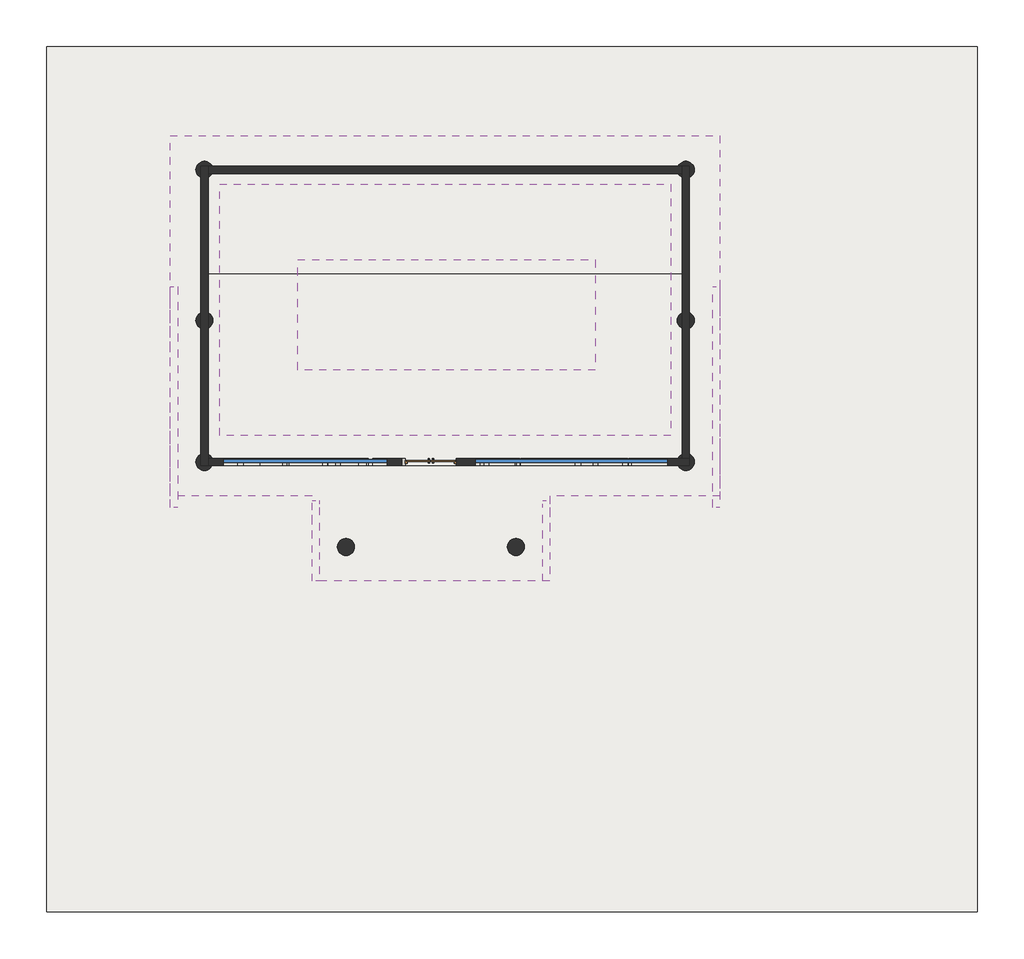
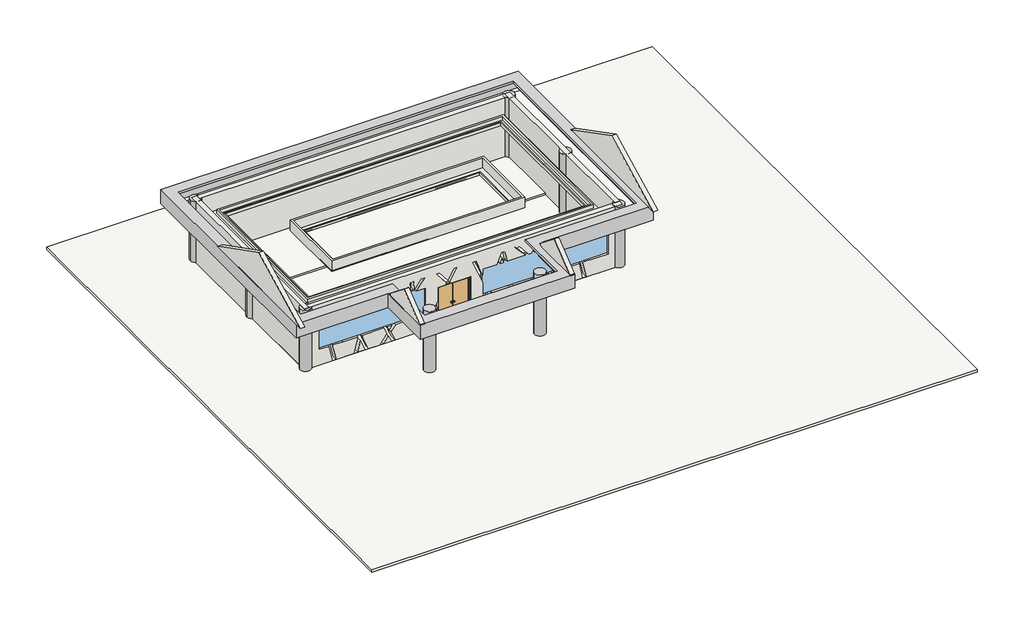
# One storey, incomplete: 10 walls, 8 columns, 3 slabs, 1 door, 1 proxy, 1 window.
"""IFC4 building model written with IfcOpenShell, lengths in millimetres."""

from ifc_helpers import new_model, si_unit, frame, origin, origin_with_axes, place, context, project, spatial, polyline, outline, extrude, faceted_brep, transform, mapped, element, save
from components import generic_models_78a03f4a, column_75cm_7b31edd7, door_180_x_220_cm_38ff8c34, wall_4f85f43c, wall_08e8096b, window_81e3a7f6

model = new_model("IFC4")

# Units and contexts
model_context = context("Model", 3, world=origin())
ifc_project = project(units=[si_unit("LENGTHUNIT", "METRE", prefix="MILLI")], contexts=[model_context])

# Site, building, storey
site = spatial("IfcSite", under=ifc_project)
building = spatial("IfcBuilding", under=site)
storey = spatial("IfcBuildingStorey", under=building, Name="樓層 1", Elevation=0.0)

# Proxy
placement = place(None, origin())
generic_models_shape = generic_models_78a03f4a(model_context)
element("IfcBuildingElementProxy", 1, Name="屋頂 : 屋頂", ObjectType="屋頂 : 屋頂", at=placement, inside=storey, context=model_context, shape_type="MappedRepresentation", body=[
    mapped(generic_models_shape, transform((0.0, 0.0, 0.0), x_axis=(1.0, 0.0, 0.0), y_axis=(0.0, 1.0, 0.0), z_axis=(0.0, 0.0, 1.0))),
])

# Columns
column_75cm_shape = column_75cm_7b31edd7(model_context)
element("IfcColumn", 2, ObjectType="混凝土柱-圓形 : 75cm", at=placement, inside=storey, context=model_context, shape_type="MappedRepresentation", body=[
    mapped(column_75cm_shape, transform((1677.4473407, -8864.8205358, 0.0), x_axis=(1.0, 0.0, 0.0), y_axis=(0.0, 1.0, 0.0), z_axis=(0.0, 0.0, 1.0))),
])
element("IfcColumn", 3, ObjectType="混凝土柱-圓形 : 75cm", at=placement, inside=storey, context=model_context, shape_type="MappedRepresentation", body=[
    mapped(column_75cm_shape, transform((7677.4473407, -8864.8205358, 0.0), x_axis=(1.0, 0.0, 0.0), y_axis=(0.0, 1.0, 0.0), z_axis=(0.0, 0.0, 1.0))),
])
element("IfcColumn", 4, ObjectType="混凝土柱-圓形 : 75cm", at=placement, inside=storey, context=model_context, shape_type="MappedRepresentation", body=[
    mapped(column_75cm_shape, transform((13677.4473407, -5864.8205358, 0.0), x_axis=(1.0, 0.0, 0.0), y_axis=(0.0, 1.0, 0.0), z_axis=(0.0, 0.0, 1.0))),
])
element("IfcColumn", 5, ObjectType="混凝土柱-圓形 : 75cm", at=placement, inside=storey, context=model_context, shape_type="MappedRepresentation", body=[
    mapped(column_75cm_shape, transform((-3322.5526593, -5864.8205358, 0.0), x_axis=(1.0, 0.0, 0.0), y_axis=(0.0, 1.0, 0.0), z_axis=(0.0, 0.0, 1.0))),
])
element("IfcColumn", 6, ObjectType="混凝土柱-圓形 : 75cm", at=placement, inside=storey, context=model_context, shape_type="MappedRepresentation", body=[
    mapped(column_75cm_shape, transform((-3322.5526593, -864.8205358, 0.0), x_axis=(1.0, 0.0, 0.0), y_axis=(0.0, 1.0, 0.0), z_axis=(0.0, 0.0, 1.0))),
])
element("IfcColumn", 7, ObjectType="混凝土柱-圓形 : 75cm", at=placement, inside=storey, context=model_context, shape_type="MappedRepresentation", body=[
    mapped(column_75cm_shape, transform((13677.4473407, -864.8205358, 0.0), x_axis=(1.0, 0.0, 0.0), y_axis=(0.0, 1.0, 0.0), z_axis=(0.0, 0.0, 1.0))),
])
element("IfcColumn", 8, ObjectType="混凝土柱-圓形 : 75cm", at=placement, inside=storey, context=model_context, shape_type="MappedRepresentation", body=[
    mapped(column_75cm_shape, transform((-3322.5526593, 4460.1794642, 0.0), x_axis=(1.0, 0.0, 0.0), y_axis=(0.0, 1.0, 0.0), z_axis=(0.0, 0.0, 1.0))),
])
element("IfcColumn", 9, ObjectType="混凝土柱-圓形 : 75cm", at=placement, inside=storey, context=model_context, shape_type="MappedRepresentation", body=[
    mapped(column_75cm_shape, transform((13677.4473407, 4460.1794642, 0.0), x_axis=(1.0, 0.0, 0.0), y_axis=(0.0, 1.0, 0.0), z_axis=(0.0, 0.0, 1.0))),
])

# Door
door_180_x_220_cm_shape = door_180_x_220_cm_38ff8c34(model_context)
element("IfcDoor", 10, ObjectType="雙開-矩形- (1) : 180 x 220 cm", at=placement, inside=storey, context=model_context, shape_type="MappedRepresentation", body=[
    mapped(door_180_x_220_cm_shape, transform((4677.4473407, -5864.8205358, 0.0), x_axis=(1.0, 0.0, 0.0), y_axis=(0.0, 1.0, 0.0), z_axis=(0.0, 0.0, 1.0))),
])

# Slabs
element("IfcSlab", 11, ObjectType="一般 - 15cm 2", at=placement, inside=storey, context=model_context, shape_type="SweptSolid", body=[
    extrude(outline(polyline([(23977.4473407, 8815.1794642), (23977.4473407, -21764.8205358), (-8897.5526593, -21764.8205358), (-8897.5526593, 8815.1794642), (23977.4473407, 8815.1794642)]), holes=[polyline([(-3452.5526593, 4590.1794642), (-3452.5526593, -5994.8205358), (13807.4473407, -5994.8205358), (13807.4473407, 4590.1794642), (-3452.5526593, 4590.1794642)])]), frame((0.0, 0.0, -150.0), z_axis=(0.0, 0.0, 1.0), x_axis=(1.0, 0.0, 0.0)), (0.0, 0.0, 1.0), 150.0),
])
element("IfcSlab", 12, ObjectType="一般 - 15cm", at=placement, inside=storey, context=model_context, shape_type="SweptSolid", body=[
    extrude(outline(polyline([(13797.4473407, 4585.1794642), (13797.4473407, -5984.8205358), (-3442.5526593, -5984.8205358), (-3442.5526593, 4585.1794642), (13797.4473407, 4585.1794642)])), frame((0.0, 0.0, -140.0), z_axis=(0.0, 0.0, 1.0), x_axis=(1.0, 0.0, 0.0)), (0.0, 0.0, 1.0), 150.0),
])
element("IfcSlab", 13, ObjectType="內部樓板", at=placement, inside=storey, context=model_context, shape_type="SweptSolid", body=[
    extrude(outline(polyline([(13547.4473407, 4330.1794642), (13547.4473407, 784.3306079), (-3192.5526593, 784.3306079), (-3192.5526593, 4330.1794642), (13547.4473407, 4330.1794642)])), frame((0.0, 0.0, -50.0), z_axis=(0.0, 0.0, 1.0), x_axis=(1.0, 0.0, 0.0)), (0.0, 0.0, 1.0), 150.0),
])

# Walls
element("IfcWall", 14, ObjectType="RC 擋土牆 - 30cm", at=placement, inside=storey, context=model_context, shape_type="Brep", body=[
    faceted_brep([(-3452.5526593, 4590.1794642, 0.0), (-3452.5526593, -5994.8205358, 0.0), (-3452.5526593, -5994.8205358, 3500.0), (-3452.5526593, 4590.1794642, 3500.0), (-3192.5526593, 4590.1794642, 0.0), (-3192.5526593, 4590.1794642, 3500.0), (-3192.5526593, 4330.1794642, 3500.0), (-3192.5526593, -5734.8205358, 3500.0), (-3192.5526593, -5994.8205358, 3500.0), (-3192.5526593, -5994.8205358, 0.0), (-3192.5526593, -5734.8205358, 0.0), (-3192.5526593, 4330.1794642, 0.0)], [[[0, 1, 2, 3]], [[4, 5, 6, 7, 8, 9, 10, 11]], [[1, 0, 4, 11, 10, 9]], [[3, 2, 8, 7, 6, 5]], [[2, 1, 9, 8]], [[0, 3, 5, 4]]]),
])
element("IfcWall", 15, ObjectType="RC 擋土牆 - 30cm", at=placement, inside=storey, context=model_context, shape_type="Brep", body=[
    faceted_brep([(-3192.5526593, -5994.8205358, 0.0), (-1929.9480859, -5994.8205358, 0.0), (-2137.7294579, -5994.8205358, 900.0), (-2660.9441643, -5994.8205358, 900.0), (-2660.9441643, -5994.8205358, 2400.0), (-2484.0317446, -5994.8205358, 2400.0), (-2622.5526593, -5994.8205358, 3000.0), (-2422.5526593, -5994.8205358, 3000.0), (-2284.0317446, -5994.8205358, 2400.0), (-1373.2679161, -5994.8205358, 2400.0), (-1167.8677695, -5994.8205358, 2400.0), (-1422.5526593, -5994.8205358, 3000.0), (-1222.5526593, -5994.8205358, 3000.0), (-967.8677695, -5994.8205358, 2400.0), (-250.0865963, -5994.8205358, 2400.0), (-122.5526593, -5994.8205358, 3000.0), (77.4473407, -5994.8205358, 3000.0), (357.2319356, -5994.8205358, 2400.0), (2317.58112, -5994.8205358, 2400.0), (2277.4473407, -5994.8205358, 3000.0), (2477.4473407, -5994.8205358, 3000.0), (2510.0587843, -5994.8205358, 2512.4589187), (2877.4473407, -5994.8205358, 3000.0), (3075.5038444, -5994.8205358, 3000.0), (2623.3714143, -5994.8205358, 2400.0), (3137.6395537, -5994.8205358, 2400.0), (3137.6395537, -5994.8205358, 900.0), (2623.3714143, -5994.8205358, 900.0), (2683.5720832, -5994.8205358, 0.0), (2981.9237023, -5994.8205358, 0.0), (3777.4473407, -5994.8205358, 1435.1626341), (3777.4473407, -5994.8205358, 2200.0), (4201.4036155, -5994.8205358, 2200.0), (4251.4360429, -5994.8205358, 2290.2608882), (3697.0255868, -5994.8205358, 3000.0), (3897.0255868, -5994.8205358, 3000.0), (4334.4502495, -5994.8205358, 2440.0224813), (4644.8508567, -5994.8205358, 3000.0), (4844.8508567, -5994.8205358, 3000.0), (4451.4360429, -5994.8205358, 2290.2608882), (4521.9430494, -5994.8205358, 2200.0), (5577.4473407, -5994.8205358, 2200.0), (5577.4473407, -5994.8205358, 848.7760646), (6107.7285713, -5994.8205358, 169.9264406), (6396.715809, -5994.8205358, 900.0), (6234.3213943, -5994.8205358, 900.0), (6234.3213943, -5994.8205358, 1624.9499106), (5657.6668901, -5994.8205358, 3000.0), (5857.6668901, -5994.8205358, 3000.0), (6234.3213943, -5994.8205358, 2101.8559538), (6234.3213943, -5994.8205358, 2400.0), (6990.4653716, -5994.8205358, 2400.0), (7227.9651967, -5994.8205358, 3000.0), (7427.9651967, -5994.8205358, 3000.0), (7547.9651967, -5994.8205358, 2400.0), (7790.7183192, -5994.8205358, 2400.0), (8532.5024535, -5994.8205358, 2400.0), (8032.8369017, -5994.8205358, 3000.0), (8232.8369017, -5994.8205358, 3000.0), (8732.5024535, -5994.8205358, 2400.0), (8846.9664818, -5994.8205358, 2400.0), (9332.8369017, -5994.8205358, 3000.0), (9532.8369017, -5994.8205358, 3000.0), (9046.9664818, -5994.8205358, 2400.0), (11154.8369017, -5994.8205358, 2400.0), (11034.8369017, -5994.8205358, 3000.0), (11234.8369017, -5994.8205358, 3000.0), (11354.8369017, -5994.8205358, 2400.0), (11604.2769208, -5994.8205358, 2400.0), (12090.1473407, -5994.8205358, 3000.0), (12290.1473407, -5994.8205358, 3000.0), (11804.2769208, -5994.8205358, 2400.0), (13031.9541736, -5994.8205358, 2400.0), (13031.9541736, -5994.8205358, 900.0), (11771.3411577, -5994.8205358, 900.0), (11654.8369017, -5994.8205358, 900.0), (11834.8369017, -5994.8205358, 0.0), (13807.4473407, -5994.8205358, 0.0), (13807.4473407, -5994.8205358, 3500.0), (-3192.5526593, -5994.8205358, 3500.0), (-1929.9480859, -5734.8205358, 0.0), (-3192.5526593, -5734.8205358, 0.0), (-3192.5526593, -5734.8205358, 3500.0), (13547.4473407, -5734.8205358, 3500.0), (13807.4473407, -5734.8205358, 3500.0), (13807.4473407, -5734.8205358, 0.0), (13547.4473407, -5734.8205358, 0.0), (11834.8369017, -5734.8205358, 0.0), (11654.8369017, -5734.8205358, 900.0), (11771.3411577, -5734.8205358, 900.0), (13031.9541736, -5734.8205358, 900.0), (13031.9541736, -5734.8205358, 2400.0), (11804.2769208, -5734.8205358, 2400.0), (12290.1473407, -5734.8205358, 3000.0), (12090.1473407, -5734.8205358, 3000.0), (11604.2769208, -5734.8205358, 2400.0), (11354.8369017, -5734.8205358, 2400.0), (11234.8369017, -5734.8205358, 3000.0), (11034.8369017, -5734.8205358, 3000.0), (11154.8369017, -5734.8205358, 2400.0), (9046.9664818, -5734.8205358, 2400.0), (9532.8369017, -5734.8205358, 3000.0), (9332.8369017, -5734.8205358, 3000.0), (8846.9664818, -5734.8205358, 2400.0), (8732.5024535, -5734.8205358, 2400.0), (8232.8369017, -5734.8205358, 3000.0), (8032.8369017, -5734.8205358, 3000.0), (8532.5024535, -5734.8205358, 2400.0), (7790.7183192, -5734.8205358, 2400.0), (7547.9651967, -5734.8205358, 2400.0), (7427.9651967, -5734.8205358, 3000.0), (7227.9651967, -5734.8205358, 3000.0), (6990.4653716, -5734.8205358, 2400.0), (6234.3213943, -5734.8205358, 2400.0), (6234.3213943, -5734.8205358, 2101.8559538), (5857.6668901, -5734.8205358, 3000.0), (5657.6668901, -5734.8205358, 3000.0), (6234.3213943, -5734.8205358, 1624.9499106), (6234.3213943, -5734.8205358, 900.0), (6396.715809, -5734.8205358, 900.0), (6107.7285713, -5734.8205358, 169.9264406), (5577.4473407, -5734.8205358, 848.7760646), (5577.4473407, -5734.8205358, 2200.0), (4521.9430494, -5734.8205358, 2200.0), (4451.4360429, -5734.8205358, 2290.2608882), (4844.8508567, -5734.8205358, 3000.0), (4644.8508567, -5734.8205358, 3000.0), (4334.4502495, -5734.8205358, 2440.0224813), (3897.0255868, -5734.8205358, 3000.0), (3697.0255868, -5734.8205358, 3000.0), (4251.4360429, -5734.8205358, 2290.2608882), (4201.4036155, -5734.8205358, 2200.0), (3777.4473407, -5734.8205358, 2200.0), (3777.4473407, -5734.8205358, 1435.1626341), (2981.9237023, -5734.8205358, 0.0), (2683.5720832, -5734.8205358, 0.0), (2623.3714143, -5734.8205358, 900.0), (3137.6395537, -5734.8205358, 900.0), (3137.6395537, -5734.8205358, 2400.0), (2623.3714143, -5734.8205358, 2400.0), (3075.5038444, -5734.8205358, 3000.0), (2877.4473407, -5734.8205358, 3000.0), (2510.0587843, -5734.8205358, 2512.4589187), (2477.4473407, -5734.8205358, 3000.0), (2277.4473407, -5734.8205358, 3000.0), (2317.58112, -5734.8205358, 2400.0), (357.2319356, -5734.8205358, 2400.0), (77.4473407, -5734.8205358, 3000.0), (-122.5526593, -5734.8205358, 3000.0), (-250.0865963, -5734.8205358, 2400.0), (-967.8677695, -5734.8205358, 2400.0), (-1222.5526593, -5734.8205358, 3000.0), (-1422.5526593, -5734.8205358, 3000.0), (-1167.8677695, -5734.8205358, 2400.0), (-1373.2679161, -5734.8205358, 2400.0), (-2284.0317446, -5734.8205358, 2400.0), (-2422.5526593, -5734.8205358, 3000.0), (-2622.5526593, -5734.8205358, 3000.0), (-2484.0317446, -5734.8205358, 2400.0), (-2660.9441643, -5734.8205358, 2400.0), (-2660.9441643, -5734.8205358, 900.0), (-2137.7294579, -5734.8205358, 900.0)], [[[0, 1, 2, 3, 4, 5, 6, 7, 8, 9, 10, 11, 12, 13, 14, 15, 16, 17, 18, 19, 20, 21, 22, 23, 24, 25, 26, 27, 28, 29, 30, 31, 32, 33, 34, 35, 36, 37, 38, 39, 40, 41, 42, 43, 44, 45, 46, 47, 48, 49, 50, 51, 52, 53, 54, 55, 56, 57, 58, 59, 60, 61, 62, 63, 64, 65, 66, 67, 68, 69, 70, 71, 72, 73, 74, 75, 76, 77, 78, 79]], [[80, 81, 82, 83, 84, 85, 86, 87, 88, 89, 90, 91, 92, 93, 94, 95, 96, 97, 98, 99, 100, 101, 102, 103, 104, 105, 106, 107, 108, 109, 110, 111, 112, 113, 114, 115, 116, 117, 118, 119, 120, 121, 122, 123, 124, 125, 126, 127, 128, 129, 130, 131, 132, 133, 134, 135, 136, 137, 138, 139, 140, 141, 142, 143, 144, 145, 146, 147, 148, 149, 150, 151, 152, 153, 154, 155, 156, 157, 158, 159, 160, 161]], [[0, 79, 82, 81]], [[78, 77, 85, 84]], [[41, 122, 121, 42]], [[122, 41, 40, 123]], [[31, 132, 131, 32]], [[132, 31, 30, 133]], [[1, 0, 81, 80]], [[79, 78, 84, 83, 82]], [[27, 26, 137, 136]], [[4, 3, 160, 159]], [[5, 4, 159, 158]], [[10, 9, 154, 153]], [[26, 25, 138, 137]], [[46, 45, 118, 117]], [[51, 50, 113, 112]], [[56, 55, 108, 107]], [[73, 72, 91, 90]], [[74, 73, 90, 89]], [[75, 74, 89, 88]], [[53, 52, 111, 110]], [[54, 53, 110, 109]], [[55, 54, 109, 108]], [[57, 56, 107, 106]], [[58, 57, 106, 105]], [[59, 58, 105, 104]], [[60, 59, 104, 103]], [[61, 60, 103, 102]], [[62, 61, 102, 101]], [[63, 62, 101, 100]], [[64, 63, 100, 99]], [[65, 64, 99, 98]], [[66, 65, 98, 97]], [[67, 66, 97, 96]], [[68, 67, 96, 95]], [[69, 68, 95, 94]], [[70, 69, 94, 93]], [[71, 70, 93, 92]], [[72, 71, 92, 91]], [[76, 75, 88, 87]], [[77, 76, 87, 86, 85]], [[2, 1, 80, 161]], [[3, 2, 161, 160]], [[6, 5, 158, 157]], [[7, 6, 157, 156]], [[8, 7, 156, 155]], [[9, 8, 155, 154]], [[11, 10, 153, 152]], [[12, 11, 152, 151]], [[13, 12, 151, 150]], [[14, 13, 150, 149]], [[15, 14, 149, 148]], [[16, 15, 148, 147]], [[17, 16, 147, 146]], [[18, 17, 146, 145]], [[19, 18, 145, 144]], [[20, 19, 144, 143]], [[21, 20, 143, 142]], [[22, 21, 142, 141]], [[23, 22, 141, 140]], [[24, 23, 140, 139]], [[25, 24, 139, 138]], [[28, 27, 136, 135]], [[29, 28, 135, 134]], [[43, 42, 121, 120]], [[44, 43, 120, 119]], [[45, 44, 119, 118]], [[47, 46, 117, 116]], [[48, 47, 116, 115]], [[49, 48, 115, 114]], [[50, 49, 114, 113]], [[52, 51, 112, 111]], [[30, 29, 134, 133]], [[39, 38, 125, 124]], [[40, 39, 124, 123]], [[33, 32, 131, 130]], [[34, 33, 130, 129]], [[35, 34, 129, 128]], [[36, 35, 128, 127]], [[37, 36, 127, 126]], [[38, 37, 126, 125]]]),
    faceted_brep([(-1373.2679161, -5994.8205358, 900.0), (-1937.7294579, -5994.8205358, 900.0), (-1729.9480859, -5994.8205358, 0.0), (-760.2223443, -5994.8205358, 0.0), (-568.9214388, -5994.8205358, 900.0), (-1937.7294579, -5734.8205358, 900.0), (-1373.2679161, -5734.8205358, 900.0), (-568.9214388, -5734.8205358, 900.0), (-760.2223443, -5734.8205358, 0.0), (-1729.9480859, -5734.8205358, 0.0)], [[[0, 1, 2, 3, 4]], [[5, 6, 7, 8, 9]], [[1, 0, 6, 5]], [[2, 1, 5, 9]], [[3, 2, 9, 8]], [[4, 3, 8, 7]], [[0, 4, 7, 6]]]),
    faceted_brep([(2109.1032749, -5994.8205358, 900.0), (1494.9838355, -5994.8205358, 900.0), (1224.2355094, -5994.8205358, 540.7048359), (1476.3703152, -5994.8205358, 0.0), (2478.1162371, -5994.8205358, 0.0), (2417.9155682, -5994.8205358, 900.0), (1494.9838355, -5734.8205358, 900.0), (2109.1032749, -5734.8205358, 900.0), (2417.9155682, -5734.8205358, 900.0), (2478.1162371, -5734.8205358, 0.0), (1476.3703152, -5734.8205358, 0.0), (1224.2355094, -5734.8205358, 540.7048359)], [[[0, 1, 2, 3, 4, 5]], [[6, 7, 8, 9, 10, 11]], [[1, 0, 7, 6]], [[2, 1, 6, 11]], [[3, 2, 11, 10]], [[4, 3, 10, 9]], [[5, 4, 9, 8]], [[0, 5, 8, 7]]]),
    faceted_brep([(10088.1968957, -5994.8205358, 531.1526908), (9781.0297385, -5994.8205358, 900.0), (7847.9651967, -5994.8205358, 900.0), (8027.9651967, -5994.8205358, 0.0), (9658.0779275, -5994.8205358, 0.0), (9781.0297385, -5734.8205358, 900.0), (10088.1968957, -5734.8205358, 531.1526908), (9658.0779275, -5734.8205358, 0.0), (8027.9651967, -5734.8205358, 0.0), (7847.9651967, -5734.8205358, 900.0)], [[[0, 1, 2, 3, 4]], [[5, 6, 7, 8, 9]], [[1, 0, 6, 5]], [[2, 1, 5, 9]], [[3, 2, 9, 8]], [[4, 3, 8, 7]], [[0, 4, 7, 6]]]),
    faceted_brep([(10191.2881717, -5994.8205358, 408.1247802), (9860.7952412, -5994.8205358, 0.0), (10531.1646609, -5994.8205358, 0.0), (9860.7952412, -5734.8205358, 0.0), (10191.2881717, -5734.8205358, 408.1247802), (10531.1646609, -5734.8205358, 0.0)], [[[0, 1, 2]], [[3, 4, 5]], [[1, 0, 4, 3]], [[2, 1, 3, 5]], [[0, 2, 5, 4]]]),
    faceted_brep([(10188.488653, -5994.8205358, 651.6470938), (10389.600871, -5994.8205358, 900.0), (9981.6663331, -5994.8205358, 900.0), (10389.600871, -5734.8205358, 900.0), (10188.488653, -5734.8205358, 651.6470938), (9981.6663331, -5734.8205358, 900.0)], [[[0, 1, 2]], [[3, 4, 5]], [[1, 0, 4, 3]], [[2, 1, 3, 5]], [[0, 2, 5, 4]]]),
    faceted_brep([(10589.600871, -5994.8205358, 900.0), (10289.8884124, -5994.8205358, 529.885937), (10731.1646609, -5994.8205358, 0.0), (11634.8369017, -5994.8205358, 0.0), (11454.8369017, -5994.8205358, 900.0), (10289.8884124, -5734.8205358, 529.885937), (10589.600871, -5734.8205358, 900.0), (11454.8369017, -5734.8205358, 900.0), (11634.8369017, -5734.8205358, 0.0), (10731.1646609, -5734.8205358, 0.0)], [[[0, 1, 2, 3, 4]], [[5, 6, 7, 8, 9]], [[4, 3, 8, 7]], [[0, 4, 7, 6]], [[1, 0, 6, 5]], [[2, 1, 5, 9]], [[3, 2, 9, 8]]]),
    faceted_brep([(7043.3454862, -5994.8205358, 172.713561), (7632.290432, -5994.8205358, 900.0), (6738.3435055, -5994.8205358, 900.0), (7632.290432, -5734.8205358, 900.0), (7043.3454862, -5734.8205358, 172.713561), (6738.3435055, -5734.8205358, 900.0)], [[[0, 1, 2]], [[3, 4, 5]], [[1, 0, 4, 3]], [[2, 1, 3, 5]], [[0, 2, 5, 4]]]),
    faceted_brep([(7827.9651967, -5994.8205358, 0.0), (7684.4730497, -5994.8205358, 717.4607349), (7103.4848021, -5994.8205358, 0.0), (7684.4730497, -5734.8205358, 717.4607349), (7827.9651967, -5734.8205358, 0.0), (7103.4848021, -5734.8205358, 0.0)], [[[0, 1, 2]], [[3, 4, 5]], [[1, 0, 4, 3]], [[2, 1, 3, 5]], [[0, 2, 5, 4]]]),
    faceted_brep([(14.8261109, -5994.8205358, 2705.3902766), (-50.0865963, -5994.8205358, 2400.0), (157.2319356, -5994.8205358, 2400.0), (-50.0865963, -5734.8205358, 2400.0), (14.8261109, -5734.8205358, 2705.3902766), (157.2319356, -5734.8205358, 2400.0)], [[[0, 1, 2]], [[3, 4, 5]], [[1, 0, 4, 3]], [[2, 1, 3, 5]], [[0, 2, 5, 4]]]),
    faceted_brep([(50.8717894, -5994.8205358, 0.0), (616.7851904, -5994.8205358, 0.0), (1024.2355094, -5994.8205358, 540.7048359), (856.6934229, -5994.8205358, 900.0), (-331.1555452, -5994.8205358, 900.0), (616.7851904, -5734.8205358, 0.0), (50.8717894, -5734.8205358, 0.0), (-331.1555452, -5734.8205358, 900.0), (856.6934229, -5734.8205358, 900.0), (1024.2355094, -5734.8205358, 540.7048359)], [[[0, 1, 2, 3, 4]], [[5, 6, 7, 8, 9]], [[1, 0, 6, 5]], [[2, 1, 5, 9]], [[3, 2, 9, 8]], [[4, 3, 8, 7]], [[0, 4, 7, 6]]]),
    faceted_brep([(-149.1282106, -5994.8205358, 0.0), (-423.0536606, -5994.8205358, 645.3279193), (-560.2223443, -5994.8205358, 0.0), (-423.0536606, -5734.8205358, 645.3279193), (-149.1282106, -5734.8205358, 0.0), (-560.2223443, -5734.8205358, 0.0)], [[[0, 1, 2]], [[3, 4, 5]], [[1, 0, 4, 3]], [[2, 1, 3, 5]], [[0, 2, 5, 4]]]),
    faceted_brep([(816.7851904, -5994.8205358, 0.0), (1276.3703152, -5994.8205358, 0.0), (1100.688054, -5994.8205358, 376.751825), (1276.3703152, -5734.8205358, 0.0), (816.7851904, -5734.8205358, 0.0), (1100.688054, -5734.8205358, 376.751825)], [[[0, 1, 2]], [[3, 4, 5]], [[1, 0, 4, 3]], [[2, 1, 3, 5]], [[0, 2, 5, 4]]]),
    faceted_brep([(1147.7829649, -5994.8205358, 704.6578468), (1294.9838355, -5994.8205358, 900.0), (1056.6934229, -5994.8205358, 900.0), (1294.9838355, -5734.8205358, 900.0), (1147.7829649, -5734.8205358, 704.6578468), (1056.6934229, -5734.8205358, 900.0)], [[[0, 1, 2]], [[3, 4, 5]], [[1, 0, 4, 3]], [[2, 1, 3, 5]], [[0, 2, 5, 4]]]),
    faceted_brep([(6040.4660714, -5994.8205358, 0.0), (5577.4473407, -5994.8205358, 592.7422528), (5577.4473407, -5994.8205358, 0.0), (5577.4473407, -5734.8205358, 592.7422528), (6040.4660714, -5734.8205358, 0.0), (5577.4473407, -5734.8205358, 0.0)], [[[0, 1, 2]], [[3, 4, 5]], [[2, 1, 3, 5]], [[1, 0, 4, 3]], [[4, 0, 2, 5]]]),
    faceted_brep([(7190.4653716, -5994.8205358, 2400.0), (7347.9651967, -5994.8205358, 2400.0), (7295.0980967, -5994.8205358, 2664.3355001), (7347.9651967, -5734.8205358, 2400.0), (7190.4653716, -5734.8205358, 2400.0), (7295.0980967, -5734.8205358, 2664.3355001)], [[[0, 1, 2]], [[3, 4, 5]], [[1, 0, 4, 3]], [[2, 1, 3, 5]], [[0, 2, 5, 4]]]),
    faceted_brep([(6924.2699296, -5994.8205358, 0.0), (6567.8712086, -5994.8205358, 827.1293769), (6240.4660714, -5994.8205358, 0.0), (6567.8712086, -5734.8205358, 827.1293769), (6924.2699296, -5734.8205358, 0.0), (6240.4660714, -5734.8205358, 0.0)], [[[0, 1, 2]], [[3, 4, 5]], [[1, 0, 4, 3]], [[2, 1, 3, 5]], [[0, 2, 5, 4]]]),
    faceted_brep([(3777.4473407, -5994.8205358, 1074.3530831), (3181.9237023, -5994.8205358, 0.0), (3777.4473407, -5994.8205358, 0.0), (3181.9237023, -5734.8205358, 0.0), (3777.4473407, -5734.8205358, 1074.3530831), (3777.4473407, -5734.8205358, 0.0)], [[[0, 1, 2]], [[3, 4, 5]], [[0, 2, 5, 4]], [[1, 0, 4, 3]], [[1, 3, 5, 2]]]),
])
element("IfcWall", 16, ObjectType="RC 擋土牆 - 30cm", at=placement, inside=storey, context=model_context, shape_type="Brep", body=[
    faceted_brep([(13807.4473407, -5734.8205358, 0.0), (13807.4473407, 4590.1794642, 0.0), (13807.4473407, 4590.1794642, 3500.0), (13807.4473407, -5734.8205358, 3500.0), (13547.4473407, -5734.8205358, 0.0), (13547.4473407, -5734.8205358, 3500.0), (13547.4473407, 4330.1794642, 3500.0), (13547.4473407, 4590.1794642, 3500.0), (13547.4473407, 4590.1794642, 0.0), (13547.4473407, 4330.1794642, 0.0)], [[[0, 1, 2, 3]], [[4, 5, 6, 7, 8, 9]], [[0, 3, 5, 4]], [[2, 1, 8, 7]], [[1, 0, 4, 9, 8]], [[3, 2, 7, 6, 5]]]),
])
element("IfcWall", 17, ObjectType="RC 擋土牆 - 30cm", at=placement, inside=storey, context=model_context, shape_type="SweptSolid", body=[
    extrude(outline(polyline([(-3192.5526593, 4590.1794642), (13547.4473407, 4590.1794642), (13547.4473407, 4330.1794642), (-3192.5526593, 4330.1794642), (-3192.5526593, 4590.1794642)])), origin_with_axes(), (0.0, 0.0, 1.0), 3500.0),
])
element("IfcWall", 18, ObjectType="RC 擋土牆 - 30cm 2", at=placement, inside=storey, context=model_context, shape_type="SweptSolid", body=[
    extrude(outline(polyline([(-3564.8205358, 5650.6617328), (335.1794642, 3650.6617328), (-7464.8205358, 3650.6617328), (-3564.8205358, 5650.6617328)])), frame((-4522.5526593, 0.0, 0.0), z_axis=(1.0, 0.0, 0.0), x_axis=(0.0, 1.0, 0.0)), (0.0, 0.0, 1.0), 250.0),
])
element("IfcWall", 19, ObjectType="RC 擋土牆 - 30cm 2", at=placement, inside=storey, context=model_context, shape_type="SweptSolid", body=[
    extrude(outline(polyline([(-10064.8205358, 3650.6617328), (-8564.8205358, 4850.6617328), (-7221.0705358, 3775.6617328), (-7464.8205358, 3650.6617328), (-10064.8205358, 3650.6617328)])), frame((8627.4473407, 0.0, 0.0), z_axis=(1.0, 0.0, 0.0), x_axis=(0.0, 1.0, 0.0)), (0.0, 0.0, 1.0), 250.0),
])
element("IfcWall", 20, ObjectType="RC 擋土牆 - 30cm 2", at=placement, inside=storey, context=model_context, shape_type="SweptSolid", body=[
    extrude(outline(polyline([(335.1794642, 3650.6617328), (-7464.8205358, 3650.6617328), (-3564.8205358, 5650.6617328), (335.1794642, 3650.6617328)])), frame((14627.4473407, 0.0, 0.0), z_axis=(1.0, 0.0, 0.0), x_axis=(0.0, 1.0, 0.0)), (0.0, 0.0, 1.0), 250.0),
])
element("IfcWall", 21, ObjectType="RC 擋土牆 - 30cm 2", at=placement, inside=storey, context=model_context, shape_type="SweptSolid", body=[
    extrude(outline(polyline([(-8564.8205358, 4850.6617328), (-7221.0705358, 3775.6617328), (-7464.8205358, 3650.6617328), (-10064.8205358, 3650.6617328), (-8564.8205358, 4850.6617328)])), frame((477.4473407, 0.0, 0.0), z_axis=(1.0, 0.0, 0.0), x_axis=(0.0, 1.0, 0.0)), (0.0, 0.0, 1.0), 250.0),
])
wall_shape = wall_4f85f43c(model_context)
element("IfcWall", 22, ObjectType="間接照明 : 間接照明", at=placement, inside=storey, context=model_context, shape_type="MappedRepresentation", body=[
    mapped(wall_shape, transform((0.0, 0.0, 0.0), x_axis=(1.0, 0.0, 0.0), y_axis=(0.0, 1.0, 0.0), z_axis=(0.0, 0.0, 1.0))),
])
wall_2_shape = wall_08e8096b(model_context)
element("IfcWall", 23, ObjectType="間接照明2 : 間接照明2", at=placement, inside=storey, context=model_context, shape_type="MappedRepresentation", body=[
    mapped(wall_2_shape, transform((0.0, 0.0, 0.0), x_axis=(1.0, 0.0, 0.0), y_axis=(0.0, 1.0, 0.0), z_axis=(0.0, 0.0, 1.0))),
])

# Window
window_shape = window_81e3a7f6(model_context)
element("IfcWindow", 24, ObjectType="外水晶柱 : 外水晶柱", at=placement, inside=storey, context=model_context, shape_type="MappedRepresentation", body=[
    mapped(window_shape, transform((0.0, 0.0, 0.0), x_axis=(1.0, 0.0, 0.0), y_axis=(0.0, 1.0, 0.0), z_axis=(0.0, 0.0, 1.0))),
])

save(model, "model.ifc")
